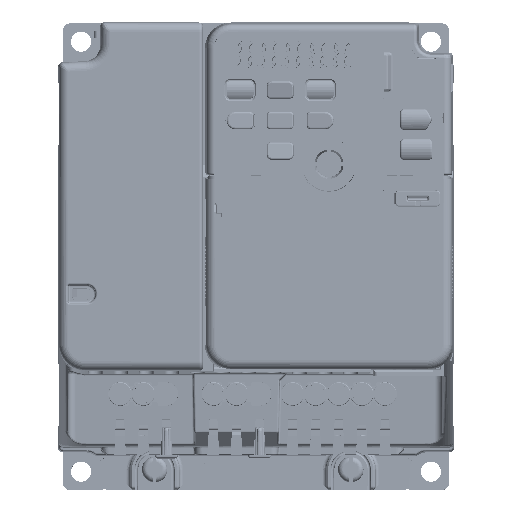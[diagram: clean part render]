
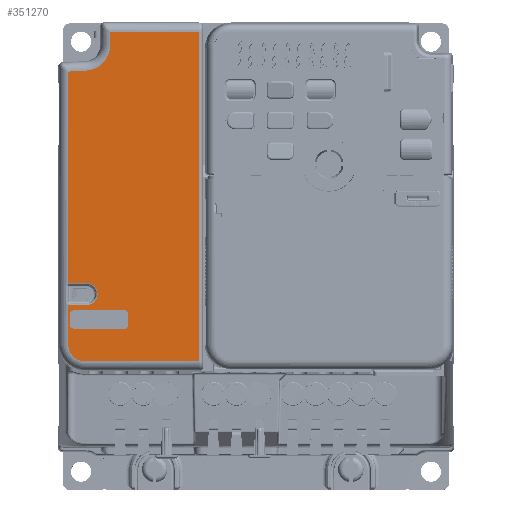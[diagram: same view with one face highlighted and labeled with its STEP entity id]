
A CAD part, top view. The second image highlights one B-rep face of the part: STEP entity #351270.
In plain terms, the highlighted planar face has unit normal (0, 0, 1).
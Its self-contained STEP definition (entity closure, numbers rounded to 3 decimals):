
#256829=DIRECTION('',(0.,-1.,0.));
#256830=VECTOR('',#256829,3.73);
#256831=CARTESIAN_POINT('',(-40.,125.5,87.3));
#256832=LINE('',#256831,#256830);
#256854=DIRECTION('',(-1.,0.,0.));
#256855=VECTOR('',#256854,24.378);
#256856=CARTESIAN_POINT('',(-15.622,125.5,
87.3));
#256857=LINE('',#256856,#256855);
#280731=DIRECTION('',(1.,0.,0.));
#280732=VECTOR('',#280731,31.378);
#280733=CARTESIAN_POINT('',(-47.,35.057,
87.3));
#280734=LINE('',#280733,#280732);
#280756=DIRECTION('',(0.999,0.052,0.));
#280757=VECTOR('',#280756,4.873);
#280758=CARTESIAN_POINT('',(-51.5,114.525,87.3));
#280759=LINE('',#280758,#280757);
#280760=CARTESIAN_POINT('',(-47.,121.77,87.3));
#280761=DIRECTION('',(0.,0.,1.));
#280762=DIRECTION('',(0.052,-0.999,0.));
#280763=AXIS2_PLACEMENT_3D('',#280760,#280761,#280762);
#280765=CARTESIAN_POINT('',(-47.,39.557,
87.3));
#280766=DIRECTION('',(0.,0.,-1.));
#280767=DIRECTION('',(0.,-1.,0.));
#280768=AXIS2_PLACEMENT_3D('',#280765,#280766,#280767);
#280770=CARTESIAN_POINT('',(-51.5,50.566,
87.3));
#280771=CARTESIAN_POINT('',(-51.453,50.542,
87.3));
#280772=CARTESIAN_POINT('',(-51.356,50.502,
87.3));
#280773=CARTESIAN_POINT('',(-51.201,50.465,
87.3));
#280774=CARTESIAN_POINT('',(-51.097,50.456,
87.3));
#280775=CARTESIAN_POINT('',(-51.044,50.456,
87.3));
#280777=CARTESIAN_POINT('',(-46.5,53.5,87.3));
#280778=DIRECTION('',(0.,0.,1.));
#280779=DIRECTION('',(0.,-1.,0.));
#280780=AXIS2_PLACEMENT_3D('',#280777,#280778,#280779);
#280782=CARTESIAN_POINT('',(-46.5,53.5,87.3));
#280783=DIRECTION('',(0.,0.,1.));
#280784=DIRECTION('',(0.058,0.998,0.));
#280785=AXIS2_PLACEMENT_3D('',#280782,#280783,#280784);
#280787=CARTESIAN_POINT('',(-51.044,56.544,
87.3));
#280788=CARTESIAN_POINT('',(-51.097,56.544,
87.3));
#280789=CARTESIAN_POINT('',(-51.202,56.535,
87.3));
#280790=CARTESIAN_POINT('',(-51.356,56.498,
87.3));
#280791=CARTESIAN_POINT('',(-51.453,56.458,87.3));
#280792=CARTESIAN_POINT('',(-51.5,56.434,87.3));
#280794=CARTESIAN_POINT('',(-50.,45.,87.3));
#280795=DIRECTION('',(0.,0.,1.));
#280796=DIRECTION('',(-1.,0.,0.));
#280797=AXIS2_PLACEMENT_3D('',#280794,#280795,#280796);
#280799=CARTESIAN_POINT('',(-36.,45.,87.3));
#280800=DIRECTION('',(0.,0.,1.));
#280801=DIRECTION('',(0.,-1.,0.));
#280802=AXIS2_PLACEMENT_3D('',#280799,#280800,#280801);
#280804=CARTESIAN_POINT('',(-36.,48.,87.3));
#280805=DIRECTION('',(0.,0.,1.));
#280806=DIRECTION('',(1.,0.,0.));
#280807=AXIS2_PLACEMENT_3D('',#280804,#280805,#280806);
#280809=CARTESIAN_POINT('',(-50.,48.,87.3));
#280810=DIRECTION('',(0.,0.,1.));
#280811=DIRECTION('',(0.,1.,0.));
#280812=AXIS2_PLACEMENT_3D('',#280809,#280810,#280811);
#280826=DIRECTION('',(0.,-1.,
0.));
#280827=VECTOR('',#280826,11.009);
#280828=CARTESIAN_POINT('',(-51.5,50.566,
87.3));
#280829=LINE('',#280828,#280827);
#280842=DIRECTION('',(0.,-1.,0.));
#280843=VECTOR('',#280842,58.091);
#280844=CARTESIAN_POINT('',(-51.5,114.525,87.3));
#280845=LINE('',#280844,#280843);
#280895=DIRECTION('',(1.,0.,0.));
#280896=VECTOR('',#280895,4.544);
#280897=CARTESIAN_POINT('',(-51.044,56.544,
87.3));
#280898=LINE('',#280897,#280896);
#280939=DIRECTION('',(-1.,0.,0.));
#280940=VECTOR('',#280939,4.544);
#280941=CARTESIAN_POINT('',(-46.5,50.456,87.3));
#280942=LINE('',#280941,#280940);
#281368=DIRECTION('',(0.,1.,0.));
#281369=VECTOR('',#281368,90.443);
#281370=CARTESIAN_POINT('',(-15.622,35.057,
87.3));
#281371=LINE('',#281370,#281369);
#281372=DIRECTION('',(0.,1.,0.));
#281373=VECTOR('',#281372,3.);
#281374=CARTESIAN_POINT('',(-51.,45.,87.3));
#281375=LINE('',#281374,#281373);
#281728=DIRECTION('',(1.,0.,0.));
#281729=VECTOR('',#281728,14.);
#281730=CARTESIAN_POINT('',(-50.,49.,87.3));
#281731=LINE('',#281730,#281729);
#281740=DIRECTION('',(0.,-1.,0.));
#281741=VECTOR('',#281740,3.);
#281742=CARTESIAN_POINT('',(-35.,48.,87.3));
#281743=LINE('',#281742,#281741);
#281752=DIRECTION('',(-1.,0.,0.));
#281753=VECTOR('',#281752,14.);
#281754=CARTESIAN_POINT('',(-36.,44.,87.3));
#281755=LINE('',#281754,#281753);
#298129=CARTESIAN_POINT('',(-47.,35.057,
87.3));
#298130=CARTESIAN_POINT('',(-51.5,39.558,
87.3));
#298131=VERTEX_POINT('',#298129);
#298132=VERTEX_POINT('',#298130);
#298133=CARTESIAN_POINT('',(-51.5,114.525,87.3));
#298134=CARTESIAN_POINT('',(-51.5,56.434,87.3));
#298135=VERTEX_POINT('',#298133);
#298136=VERTEX_POINT('',#298134);
#298137=CARTESIAN_POINT('',(-46.634,114.78,87.3));
#298138=VERTEX_POINT('',#298137);
#298139=CARTESIAN_POINT('',(-40.,121.77,87.3));
#298140=VERTEX_POINT('',#298139);
#298141=CARTESIAN_POINT('',(-40.,125.5,87.3));
#298142=VERTEX_POINT('',#298141);
#298143=CARTESIAN_POINT('',(-15.622,125.5,
87.3));
#298144=VERTEX_POINT('',#298143);
#298145=CARTESIAN_POINT('',(-15.622,35.057,
87.3));
#298146=VERTEX_POINT('',#298145);
#298147=CARTESIAN_POINT('',(-51.5,50.566,
87.3));
#298148=VERTEX_POINT('',#298147);
#298149=VERTEX_POINT('',#280775);
#298150=CARTESIAN_POINT('',(-46.5,50.456,87.3));
#298151=VERTEX_POINT('',#298150);
#298152=CARTESIAN_POINT('',(-46.322,56.539,87.3));
#298153=VERTEX_POINT('',#298152);
#298154=CARTESIAN_POINT('',(-46.5,56.544,87.3));
#298155=VERTEX_POINT('',#298154);
#298156=CARTESIAN_POINT('',(-51.044,56.544,
87.3));
#298157=VERTEX_POINT('',#298156);
#298158=CARTESIAN_POINT('',(-51.,45.,87.3));
#298159=CARTESIAN_POINT('',(-51.,48.,87.3));
#298160=VERTEX_POINT('',#298158);
#298161=VERTEX_POINT('',#298159);
#298162=CARTESIAN_POINT('',(-50.,44.,87.3));
#298163=VERTEX_POINT('',#298162);
#298164=CARTESIAN_POINT('',(-36.,44.,87.3));
#298165=VERTEX_POINT('',#298164);
#298166=CARTESIAN_POINT('',(-35.,45.,87.3));
#298167=VERTEX_POINT('',#298166);
#298168=CARTESIAN_POINT('',(-35.,48.,87.3));
#298169=VERTEX_POINT('',#298168);
#298170=CARTESIAN_POINT('',(-36.,49.,87.3));
#298171=VERTEX_POINT('',#298170);
#298172=CARTESIAN_POINT('',(-50.,49.,87.3));
#298173=VERTEX_POINT('',#298172);
#351219=CARTESIAN_POINT('',(0.,0.,87.3));
#351220=DIRECTION('',(0.,0.,1.));
#351221=DIRECTION('',(1.,0.,0.));
#351222=AXIS2_PLACEMENT_3D('',#351219,#351220,#351221);
#351223=PLANE('',#351222);
#351225=ORIENTED_EDGE('',*,*,#351224,.F.);
#351227=ORIENTED_EDGE('',*,*,#351226,.T.);
#351229=ORIENTED_EDGE('',*,*,#351228,.T.);
#351230=ORIENTED_EDGE('',*,*,#317410,.F.);
#351231=ORIENTED_EDGE('',*,*,#317487,.F.);
#351233=ORIENTED_EDGE('',*,*,#351232,.F.);
#351234=ORIENTED_EDGE('',*,*,#351199,.F.);
#351235=ORIENTED_EDGE('',*,*,#351209,.T.);
#351237=ORIENTED_EDGE('',*,*,#351236,.F.);
#351239=ORIENTED_EDGE('',*,*,#351238,.T.);
#351241=ORIENTED_EDGE('',*,*,#351240,.F.);
#351243=ORIENTED_EDGE('',*,*,#351242,.T.);
#351245=ORIENTED_EDGE('',*,*,#351244,.T.);
#351247=ORIENTED_EDGE('',*,*,#351246,.F.);
#351249=ORIENTED_EDGE('',*,*,#351248,.T.);
#351250=EDGE_LOOP('',(#351225,#351227,#351229,#351230,#351231,#351233,#351234,
#351235,#351237,#351239,#351241,#351243,#351245,#351247,#351249));
#351251=FACE_OUTER_BOUND('',#351250,.F.);
#351253=ORIENTED_EDGE('',*,*,#351252,.F.);
#351255=ORIENTED_EDGE('',*,*,#351254,.T.);
#351257=ORIENTED_EDGE('',*,*,#351256,.F.);
#351259=ORIENTED_EDGE('',*,*,#351258,.T.);
#351261=ORIENTED_EDGE('',*,*,#351260,.F.);
#351263=ORIENTED_EDGE('',*,*,#351262,.T.);
#351265=ORIENTED_EDGE('',*,*,#351264,.F.);
#351267=ORIENTED_EDGE('',*,*,#351266,.T.);
#351268=EDGE_LOOP('',(#351253,#351255,#351257,#351259,#351261,#351263,#351265,
#351267));
#351269=FACE_BOUND('',#351268,.F.);
#351270=ADVANCED_FACE('',(#351251,#351269),#351223,.T.);
#280764=CIRCLE('',#280763,7.);
#280769=CIRCLE('',#280768,4.5);
#280776=B_SPLINE_CURVE_WITH_KNOTS('',3,(#280770,#280771,#280772,#280773,#280774,
#280775),.UNSPECIFIED.,.F.,.F.,(4,1,1,4),(0.,0.333,
0.667,1.),.UNSPECIFIED.);
#280781=CIRCLE('',#280780,3.044);
#280786=CIRCLE('',#280785,3.044);
#280793=B_SPLINE_CURVE_WITH_KNOTS('',3,(#280787,#280788,#280789,#280790,#280791,
#280792),.UNSPECIFIED.,.F.,.F.,(4,1,1,4),(0.,0.333,
0.667,1.),.UNSPECIFIED.);
#280798=CIRCLE('',#280797,1.);
#280803=CIRCLE('',#280802,1.);
#280808=CIRCLE('',#280807,1.);
#280813=CIRCLE('',#280812,1.);
#317410=EDGE_CURVE('',#298142,#298140,#256832,.T.);
#317487=EDGE_CURVE('',#298144,#298142,#256857,.T.);
#351199=EDGE_CURVE('',#298131,#298146,#280734,.T.);
#351209=EDGE_CURVE('',#298131,#298132,#280769,.T.);
#351224=EDGE_CURVE('',#298135,#298136,#280845,.T.);
#351226=EDGE_CURVE('',#298135,#298138,#280759,.T.);
#351228=EDGE_CURVE('',#298138,#298140,#280764,.T.);
#351232=EDGE_CURVE('',#298146,#298144,#281371,.T.);
#351236=EDGE_CURVE('',#298148,#298132,#280829,.T.);
#351238=EDGE_CURVE('',#298148,#298149,#280776,.T.);
#351240=EDGE_CURVE('',#298151,#298149,#280942,.T.);
#351242=EDGE_CURVE('',#298151,#298153,#280781,.T.);
#351244=EDGE_CURVE('',#298153,#298155,#280786,.T.);
#351246=EDGE_CURVE('',#298157,#298155,#280898,.T.);
#351248=EDGE_CURVE('',#298157,#298136,#280793,.T.);
#351252=EDGE_CURVE('',#298160,#298161,#281375,.T.);
#351254=EDGE_CURVE('',#298160,#298163,#280798,.T.);
#351256=EDGE_CURVE('',#298165,#298163,#281755,.T.);
#351258=EDGE_CURVE('',#298165,#298167,#280803,.T.);
#351260=EDGE_CURVE('',#298169,#298167,#281743,.T.);
#351262=EDGE_CURVE('',#298169,#298171,#280808,.T.);
#351264=EDGE_CURVE('',#298173,#298171,#281731,.T.);
#351266=EDGE_CURVE('',#298173,#298161,#280813,.T.);
